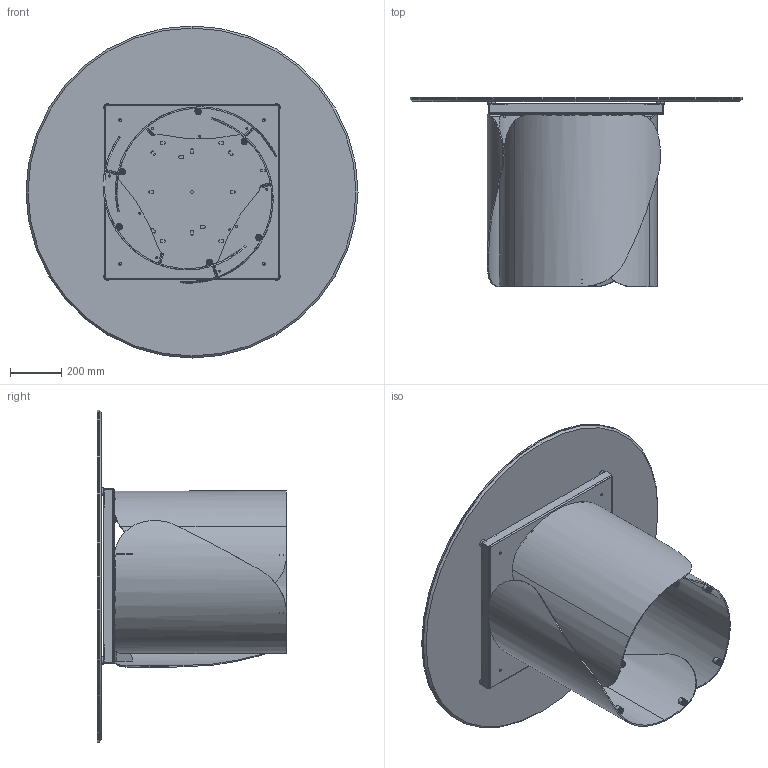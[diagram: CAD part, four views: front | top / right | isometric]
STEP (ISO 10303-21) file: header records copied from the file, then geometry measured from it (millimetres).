
FILE_DESCRIPTION (( 'STEP AP203' ), '1' );
FILE_NAME ('ON05C.STEP', '2024-08-06T13:27:23', ( '' ), ( '' ), 'SwSTEP 2.0', 'SolidWorks 2022', '' );
FILE_SCHEMA (( 'CONFIG_CONTROL_DESIGN' ));
Length unit declared in the file: millimetre
Products named in the file (15): rondella M8_8X24; TTAV0801-02-TELAIO UNIVERSALE TONDO; TTAV0801 TELAIO UNIVERSALE TONDO-PIASTRINA; PIEDINO PER ONDA; COLLO TELAIO UNIVERSALE TTAV0801 CON FERRAMENTA_MTG TOP CRISTALLO VERNICIATO-CERAMICA; ON05C; OND000000_01-00-PIASTRA SUPERIORE BASE ONDA; 434070-00-PIEDINO TPV GOMMA NERO D. 30x8max18_filo estetico; OND000000_02-00-CILINDRO DI FISSAGGIO Ø25X17 M8; OND000000-03-ONDA BASE GREZZA; OND000000_03-00-LAMIERA CURVATA PRINCIPALE_OND00000X-00-ONDA BASE GREZZA PROTOTIPO; COLLO BASE ONDA SINGOLA CON FERRAMENTA; TTAV0801-02-TELAIO UNIVERSALE TONDO-VASSOIO; M8xXXmm_M8x20mm; K1XCMXX-00-Piani Rotondi in ceramica_D.1300
Assembly tree (46 placements, depth 4):
  ON05C
    COLLO TELAIO UNIVERSALE TTAV0801 CON FERRAMENTA_MTG TOP CRISTALLO VERNICIATO-CERAMICA
      TTAV0801-02-TELAIO UNIVERSALE TONDO
        TTAV0801-02-TELAIO UNIVERSALE TONDO-VASSOIO
        TTAV0801 TELAIO UNIVERSALE TONDO-PIASTRINA  x4
      434070-00-PIEDINO TPV GOMMA NERO D. 30x8max18_filo estetico  x4
    COLLO BASE ONDA SINGOLA CON FERRAMENTA  x3
      OND000000-03-ONDA BASE GREZZA
        OND000000_03-00-LAMIERA CURVATA PRINCIPALE_OND00000X-00-ONDA BASE GREZZA PROTOTIPO
        OND000000_01-00-PIASTRA SUPERIORE BASE ONDA
        OND000000_02-00-CILINDRO DI FISSAGGIO Ø25X17 M8  x2
      PIEDINO PER ONDA
    rondella M8_8X24  x12
    M8xXXmm_M8x20mm  x12
    K1XCMXX-00-Piani Rotondi in ceramica_D.1300
Bounding box: 1300 x 742 x 1300 mm (x, y, z)
Volume: 31887869 mm3; surface area: 9995587.1 mm2
Topology: 63 solids, 63 shells, 1551 faces, 3661 edges, 2272 vertices
Faces by surface type: plane 628, cylinder 545, torus 184, cone 134, bspline 60
Entity records: 19476 total; most frequent: CARTESIAN_POINT 4535, DIRECTION 2683, ORIENTED_EDGE 2552, EDGE_CURVE 1276, AXIS2_PLACEMENT_3D 980, VERTEX_POINT 822, LINE 723, VECTOR 723
